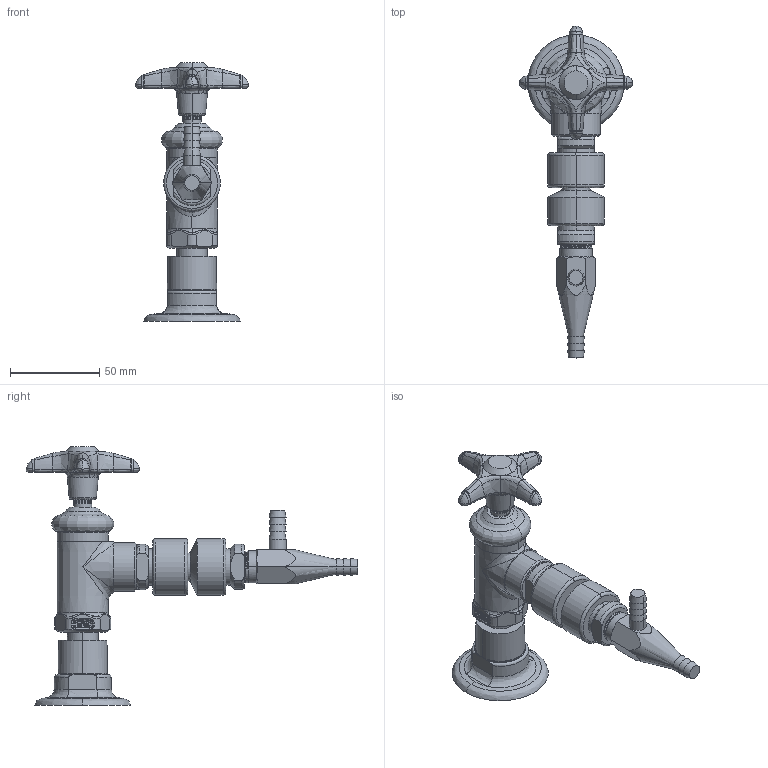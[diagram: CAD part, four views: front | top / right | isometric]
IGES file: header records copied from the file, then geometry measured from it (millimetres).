
Start section:  PTC IGES file: LWV2-C64-50.igs
Global section: file name: LWV2-C64-50.igs; native system: Creo Parametric by PTC Inc.; preprocessor: 2014500; author: usch_engrender; organization: Unknown; date: 20151117.120556; units: inch
Bounding box: 63.42 x 185.63 x 144.7 mm (x, y, z)
Volume: 151257.2 mm3; surface area: 35498.9 mm2
Topology: 1 solids, 4 shells, 542 faces, 1260 edges, 750 vertices
Faces by surface type: bspline 290, revolution 252
